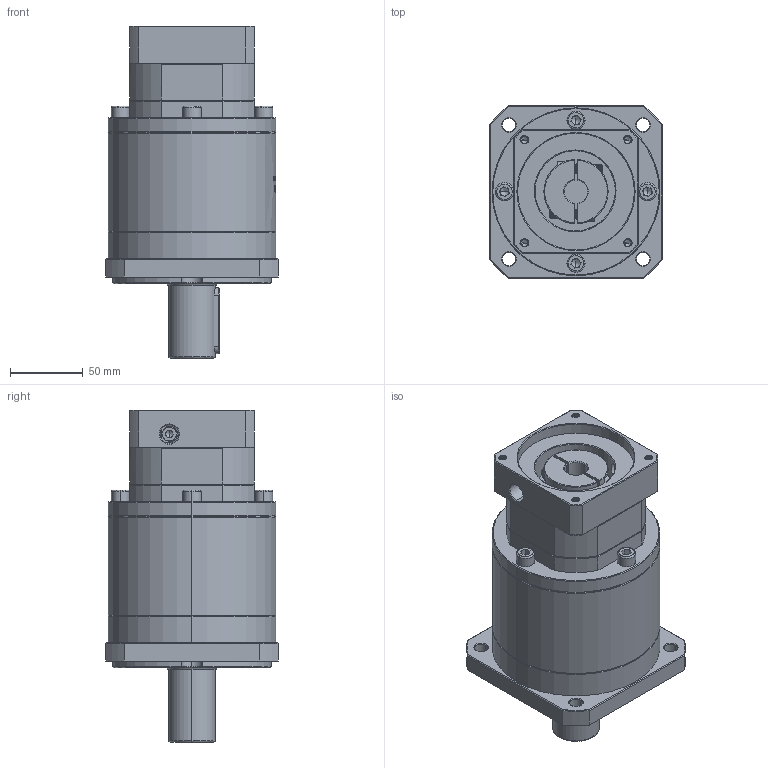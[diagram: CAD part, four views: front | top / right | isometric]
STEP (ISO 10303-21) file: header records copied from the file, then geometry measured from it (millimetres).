
FILE_DESCRIPTION (( 'STEP AP214' ), '1' );
FILE_NAME ('ZF120A-D32-L3-16-80-100-M6.step', '2023-03-07T15:02:40', ( '' ), ( 'Microsoft' ), 'SwSTEP 2.0', 'SolidWorks 2016', '' );
FILE_SCHEMA (( 'AUTOMOTIVE_DESIGN' ));
Length unit declared in the file: millimetre
Products named in the file (1): ZF120A-D32-L3-16-80-100-M6
Bounding box: 118 x 118 x 227.5 mm (x, y, z)
Volume: 1579495.6 mm3; surface area: 138354.7 mm2
Topology: 5 solids, 6 shells, 1936 faces, 5076 edges, 3232 vertices
Faces by surface type: plane 887, cylinder 402, bspline 321, cone 311, torus 15
Entity records: 105382 total; most frequent: CARTESIAN_POINT 40238, ORIENTED_EDGE 10092, DIRECTION 7782, EDGE_CURVE 5046, VERTEX_POINT 3232, LINE 2748, VECTOR 2748, AXIS2_PLACEMENT_3D 2517
